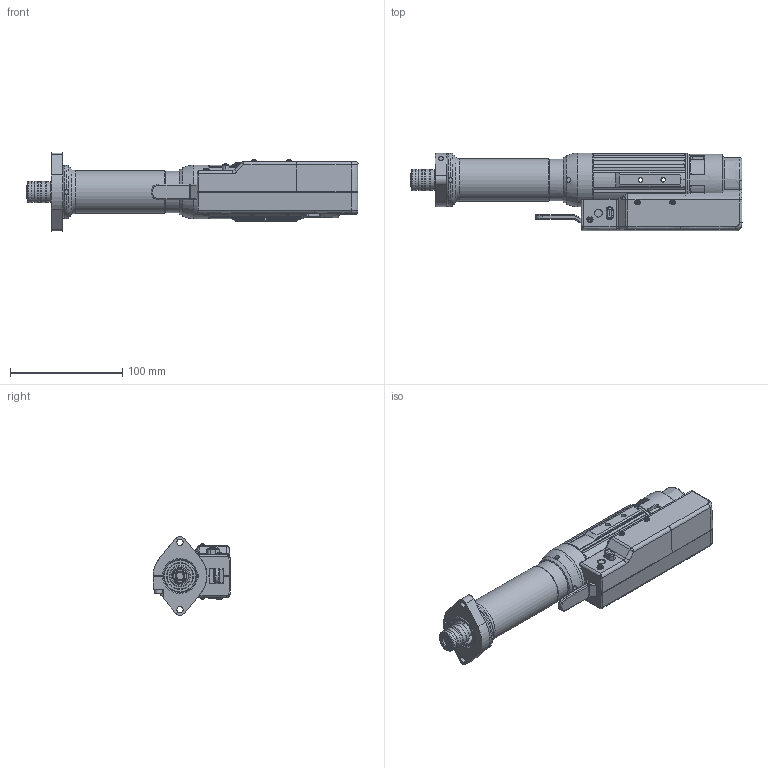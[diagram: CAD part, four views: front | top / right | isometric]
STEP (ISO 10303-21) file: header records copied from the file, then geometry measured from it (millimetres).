
FILE_DESCRIPTION(('STEP AP203'),'2;1');
FILE_NAME('EH2-R0005-SL.stp','2009-03-17T15:36:15',(''),(''),'2008.1.107','THINKDESIGN','');
FILE_SCHEMA(('CONFIG_CONTROL_DESIGN'));
Bounding box: 295.95 x 69.45 x 69.97 mm (x, y, z)
Volume: 140800.7 mm3; surface area: 188153.5 mm2
Topology: 29 solids, 29 shells, 1919 faces, 8644 edges, 7751 vertices
Faces by surface type: bspline 1165, plane 449, cylinder 305
Full cylindrical faces by diameter (mm): 1 x7, 1.5 x7, 1.6 x44, 2 x8, 2.2 x40, 2.5 x6, 2.6 x8, 3 x46, 3.5 x2, 4 x4, 4.1 x4, 4.2 x1, 5.5 x3, 6 x3, 7.5 x1, 9.2 x1, 11.5 x2, 12 x6, 13 x1, 13.2 x1, 14.6 x1, 15 x1, 15.4 x1, 16 x1, 16.2 x1, 17 x1, 18 x4, 18.2 x1, 19 x3, 20 x1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
Entity records: 156835 total; most frequent: CARTESIAN_POINT 115228, COMPOSITE_CURVE_SEGMENT 5851, DIRECTION 5760, ORIENTED_EDGE 5180, B_SPLINE_CURVE_WITH_KNOTS 3553, EDGE_CURVE 2590, AXIS2_PLACEMENT_3D 1994, VERTEX_POINT 1851
